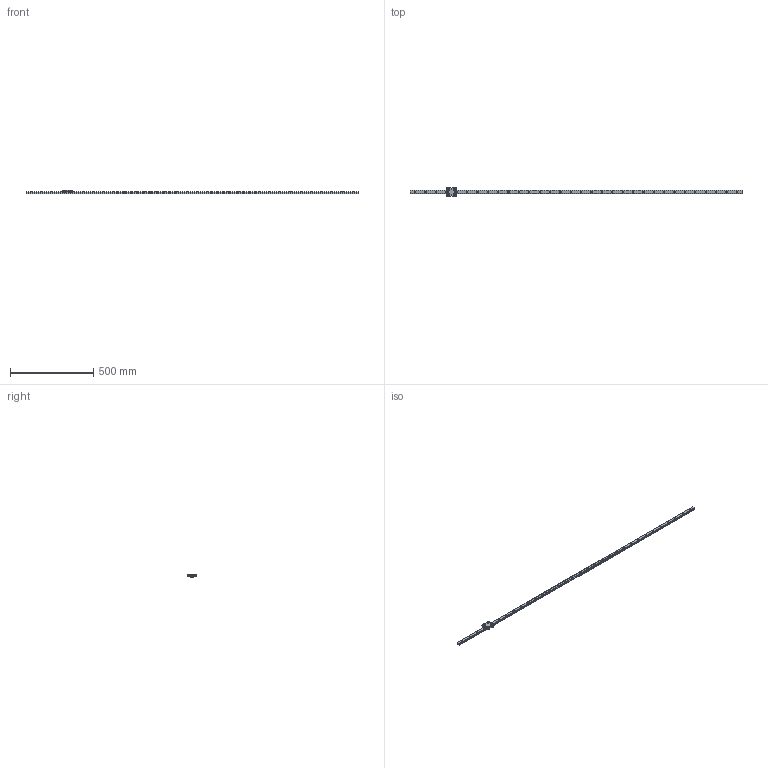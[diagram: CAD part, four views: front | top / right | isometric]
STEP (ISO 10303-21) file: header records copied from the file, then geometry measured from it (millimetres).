
FILE_DESCRIPTION((''),'2;1');
FILE_NAME('C:\Documents and Settings\土屋\My Documents\土屋移動用フォルダ\製品 (図面)\改正SPDRダウンロード用図面\step形式\SPDR20R.stp','2017-07-18T16:47:09',('y'),(''),'Autodesk Inventor 11','Autodesk Inventor 11','');
FILE_SCHEMA(('AUTOMOTIVE_DESIGN { 1 0 10303 214 1 1 1 1 }'));
Length unit declared in the file: millimetre
Products named in the file (3): SPDR20R; SPDR20Rレール; SPDR20Rキャリッジ
Assembly tree (2 placements, depth 2):
  SPDR20R
    SPDR20Rレール
    SPDR20Rキャリッジ
Bounding box: 2000 x 52 x 20 mm (x, y, z)
Volume: 400540.7 mm3; surface area: 153819.8 mm2
Topology: 2 solids, 2 shells, 256 faces, 576 edges, 384 vertices
Faces by surface type: bspline 112, plane 78, cylinder 42, cone 24
Full cylindrical faces by diameter (mm): 5 x4, 9.2 x8, 10 x4, 16 x8
Entity records: 7856 total; most frequent: CARTESIAN_POINT 2805, DIRECTION 946, ORIENTED_EDGE 888, EDGE_LOOP 488, EDGE_CURVE 444, AXIS2_PLACEMENT_3D 401, VERTEX_POINT 352, FACE_OUTER_BOUND 256
